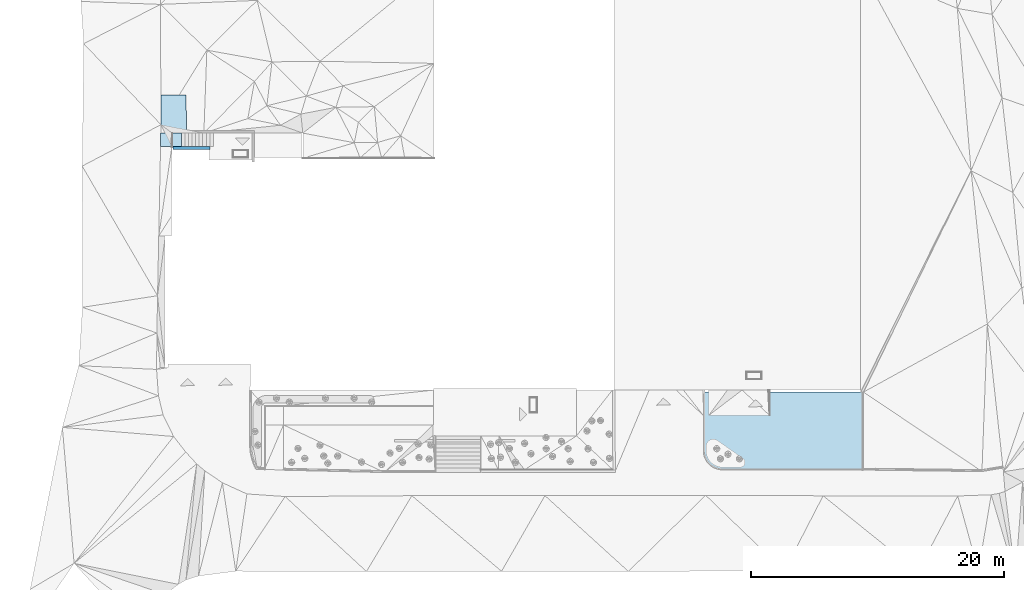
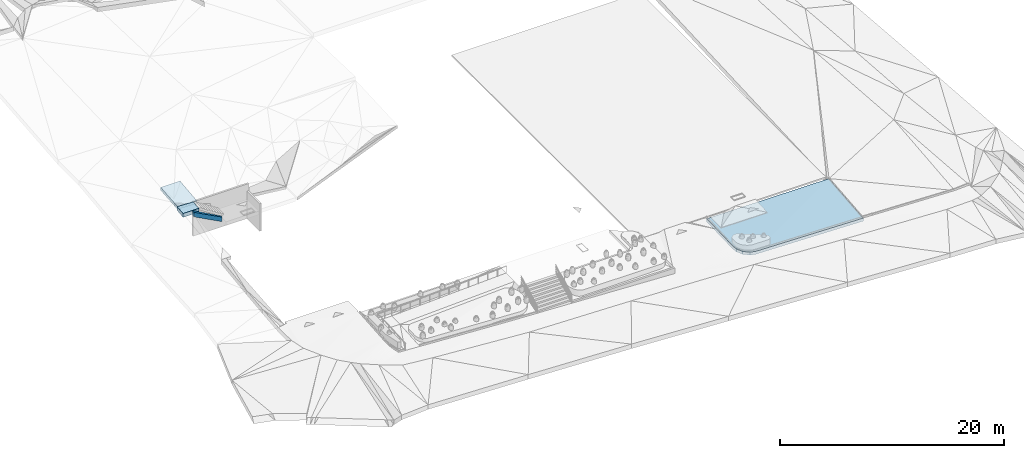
# One storey, part 15 of 23: 4 slabs.
"""IFC2X3 building model written with IfcOpenShell, lengths in metres."""

from ifc_helpers import new_model, entity, si_unit, converted_unit, direction, origin, place, context, subcontext, project, spatial, faceted_brep, material, material_list, layer, layer_set, type_object, element, save


model = new_model("IFC2X3")

# Units and contexts
model_context = context("Model", 3, precision=1e-05, world=origin(), true_north=direction((0.7716245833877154, 0.6360782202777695)))
body_context = subcontext(model_context, "Body", "Model", "MODEL_VIEW")
ifc_project = project(units=[si_unit("LENGTHUNIT", "METRE"), converted_unit("PLANEANGLEUNIT", "DEGREE", entity("IfcPlaneAngleMeasure", 0.017453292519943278), si_unit("PLANEANGLEUNIT", "RADIAN"), dimensions=[0, 0, 0, 0, 0, 0, 0]), si_unit("AREAUNIT", "SQUARE_METRE")], contexts=[model_context])

# Site, building, storey
site_placement = place(None, origin())
site = spatial("IfcSite", under=ifc_project, at=site_placement, Name="Default", CompositionType="ELEMENT")
building_placement = place(site_placement, origin())
building = spatial("IfcBuilding", under=site, at=building_placement, Name="<Building Name>", CompositionType="ELEMENT")
storey_placement = place(building_placement, origin())
storey = spatial("IfcBuildingStorey", under=building, at=storey_placement, Name="00 - HAV", CompositionType="ELEMENT", Elevation=0.0)

# Slabs
ifc_material_1 = material(Name="815 - Terrain, Grøntareal")
ifc_material_2 = material(Name="Site - Soil - Jordlag")
ifc_material_list_1 = material_list([ifc_material_1, ifc_material_2])
slab_type_1 = type_object("IfcSlabType", Name="Floor:771 Grøntarealer 2", PredefinedType="FLOOR")
slab_1_placement = place(storey_placement, origin())
element("IfcSlab", 1, at=slab_1_placement, inside=storey, type_object=slab_type_1, material=ifc_material_list_1, Name="Floor:771 Grøntarealer 2", ObjectType="Floor:771 Grøntarealer 2", PredefinedType="FLOOR", context=body_context, shape_type="Brep", body=[
    faceted_brep([(267.06103938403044, 46.891797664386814, 30.208719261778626), (278.2031523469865, 46.882836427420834, 29.950688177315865), (278.2031523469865, 46.882836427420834, 30.270688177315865), (267.06103938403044, 46.891797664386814, 30.528719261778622), (266.54835218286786, 46.98257279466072, 30.579078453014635), (266.41155393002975, 47.06982050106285, 30.594815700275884), (266.2747556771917, 47.15706820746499, 30.610552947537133), (266.2747556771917, 47.15706820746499, 30.290552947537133), (266.41155393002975, 47.06982050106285, 30.27481570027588), (266.54835218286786, 46.98257279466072, 30.25907845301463), (267.0100873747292, 46.9008191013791, 30.21372407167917), (267.0289964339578, 46.89747111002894, 30.531866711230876), (267.0152635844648, 46.89990215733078, 30.53321561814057), (266.8046957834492, 46.93718522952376, 30.55389885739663), (266.6307468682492, 46.967979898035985, 30.25098501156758), (266.0011591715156, 47.331563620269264, 30.32202744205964), (266.1379569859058, 47.24431471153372, 30.626290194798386), (266.79553974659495, 46.93880372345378, 30.554798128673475), (266.1379569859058, 47.24431471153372, 30.30629019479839), (267.0355633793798, 46.896308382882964, 30.211221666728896), (266.959135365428, 46.90984053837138, 30.21872888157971), (266.9649105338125, 46.90881800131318, 30.53816161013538), (266.9328675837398, 46.91449144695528, 30.541309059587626), (266.9008246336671, 46.920164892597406, 30.54445650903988), (266.88191557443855, 46.92351288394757, 30.226313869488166), (266.92052546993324, 46.91667671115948, 30.222521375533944), (266.8367387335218, 46.931511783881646, 30.55075140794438), (266.8046957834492, 46.93718522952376, 30.23389885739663), (266.8433056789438, 46.930349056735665, 30.2301063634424), (266.86878168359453, 46.92583833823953, 30.547603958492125), (265.6413132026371, 47.943132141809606, 30.391271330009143), (265.6469608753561, 47.91108463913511, 30.388123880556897), (265.65260854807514, 47.8790371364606, 30.384976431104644), (265.65260854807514, 47.8790371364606, 30.704976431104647), (265.6458034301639, 47.917652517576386, 30.708768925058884), (265.63899831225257, 47.95626789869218, 30.71256141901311), (265.60157016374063, 48.16865249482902, 30.7334201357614), (265.598167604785, 48.18796018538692, 30.735316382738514), (265.59613182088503, 48.199512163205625, 30.41645092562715), (265.60177949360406, 48.167464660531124, 30.4133034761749), (265.6046033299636, 48.15144090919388, 30.411729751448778), (265.6060152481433, 48.14342903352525, 30.410942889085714), (265.6074271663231, 48.13541715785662, 30.41015602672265), (265.60497272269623, 48.149344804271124, 30.73152388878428), (265.62538807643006, 48.033498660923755, 30.72014640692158), (265.6243701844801, 48.03927464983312, 30.4007136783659), (265.63001785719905, 48.007227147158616, 30.397566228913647), (265.63566552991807, 47.975179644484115, 30.3944187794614), (265.6321931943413, 47.99488327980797, 30.71635391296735), (265.579188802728, 48.29565467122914, 30.425893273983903), (265.58483647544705, 48.26360716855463, 30.422745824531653), (265.59048414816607, 48.231559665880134, 30.419598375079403), (265.58918714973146, 48.23891943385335, 30.740321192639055), (265.5846969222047, 48.26439905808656, 30.742823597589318), (265.580206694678, 48.28987868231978, 30.745326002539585), (265.6185829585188, 48.07211404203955, 30.72393890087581), (265.61177784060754, 48.11072942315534, 30.72773139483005), (265.6130748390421, 48.10336965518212, 30.407008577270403), (265.6187225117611, 48.071322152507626, 30.40386112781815), (265.5667360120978, 48.366317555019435, 30.75283321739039), (265.562245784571, 48.39179717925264, 30.755335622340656), (265.562245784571, 48.39179717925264, 30.435335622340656), (265.56789345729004, 48.35974967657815, 30.432188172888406), (265.7397462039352, 47.74216875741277, 30.36923918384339), (265.8268838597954, 47.60530037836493, 30.35350193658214), (265.8268838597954, 47.60530037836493, 30.673501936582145), (265.7397462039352, 47.74216875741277, 30.689239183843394), (266.87793618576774, 46.92421563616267, 30.226704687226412), (266.0011591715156, 47.331563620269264, 30.64202744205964), (265.91402031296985, 47.468431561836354, 30.657764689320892), (266.87793618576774, 46.92421563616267, 30.54670468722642), (266.99695348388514, 46.903144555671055, 30.535014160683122), (266.9694877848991, 46.90800665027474, 30.53771197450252), (266.9694877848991, 46.90800665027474, 30.21771197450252), (267.01526358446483, 46.89990215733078, 30.21321561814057), (265.57122623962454, 48.340837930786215, 30.750330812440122), (265.5703134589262, 48.34601487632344, 30.43083926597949), (265.5945164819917, 48.20866796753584, 30.737350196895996), (265.6090382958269, 48.126259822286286, 30.72925675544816), (265.5945164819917, 48.208667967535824, 30.417350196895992), (265.6235601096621, 48.043851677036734, 30.721163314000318), (265.6090382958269, 48.126259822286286, 30.409256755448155), (265.62356010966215, 48.043851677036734, 30.40116331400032), (265.63808192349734, 47.9614435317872, 30.39306987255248), (265.57354113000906, 48.32770217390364, 30.429040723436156), (265.57838113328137, 48.30023257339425, 30.426342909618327), (265.5783811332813, 48.30023257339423, 30.746342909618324), (265.63808192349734, 47.9614435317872, 30.713069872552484), (265.5703134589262, 48.34601487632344, 30.750839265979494), (265.91402031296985, 47.468431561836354, 30.33776468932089), (265.562245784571, 48.57366303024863, 30.76104448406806), (265.562245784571, 48.75552888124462, 30.76675334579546), (265.562245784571, 49.11926058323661, 30.778171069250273), (265.562245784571, 49.48299228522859, 30.78958879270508), (265.562245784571, 49.84672398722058, 30.801006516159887), (265.562245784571, 50.02858983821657, 30.80671537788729), (265.562245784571, 50.21045568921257, 30.812424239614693), (265.562245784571, 50.574187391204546, 30.823841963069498), (265.562245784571, 50.93791909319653, 30.835259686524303), (265.562245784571, 51.30165079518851, 30.846677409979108), (265.5622457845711, 51.73428625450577, 30.860258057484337), (265.562245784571, 52.166921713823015, 30.873838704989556), (265.562245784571, 52.59955717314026, 30.887419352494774), (265.562245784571, 53.03219263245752, 30.901), (265.562245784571, 53.03219263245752, 30.581), (265.562245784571, 52.599557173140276, 30.567419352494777), (265.562245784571, 52.166921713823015, 30.55383870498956), (265.562245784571, 51.73428625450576, 30.54025805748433), (265.562245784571, 51.30165079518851, 30.52667740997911), (265.562245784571, 50.93791909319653, 30.515259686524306), (265.562245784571, 50.574187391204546, 30.503841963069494), (265.562245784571, 50.21045568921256, 30.49242423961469), (265.562245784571, 50.02858983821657, 30.48671537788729), (265.562245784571, 49.84672398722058, 30.481006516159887), (265.562245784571, 49.482992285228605, 30.46958879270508), (265.562245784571, 49.11926058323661, 30.45817106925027), (265.562245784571, 48.75552888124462, 30.44675334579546), (265.562245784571, 48.57366303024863, 30.44104448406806), (278.2031523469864, 53.03219263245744, 30.539999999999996), (278.2031523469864, 53.03219263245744, 30.860000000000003), (266.7085960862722, 48.33571966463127, 30.616261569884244), (266.59111498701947, 48.81702699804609, 30.6454423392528), (266.4736338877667, 49.29833433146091, 30.674623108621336), (266.6307468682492, 46.96797989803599, 30.570985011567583), (266.713143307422, 46.953391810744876, 30.562891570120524), (266.826077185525, 47.85441233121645, 30.58708080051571), (267.0022988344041, 47.132451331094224, 30.543309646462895), (266.9435582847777, 47.37310499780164, 30.557900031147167), (265.84171818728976, 51.887224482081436, 30.831582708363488), (266.35615278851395, 49.77964166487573, 30.703803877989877), (266.2386716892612, 50.260948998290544, 30.73298464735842), (266.12119059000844, 50.74225633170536, 30.762165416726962), (265.7228548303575, 49.94996112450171, 30.769000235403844), (265.7532552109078, 50.211983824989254, 30.775501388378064), (266.4148933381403, 49.53898799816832, 30.68921349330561), (265.85154583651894, 49.79471701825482, 30.750074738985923), (265.7019819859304, 52.45970855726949, 30.866291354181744), (265.98145438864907, 51.3147404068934, 30.79687406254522), (265.9075522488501, 49.936516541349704, 30.750368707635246), (266.71314330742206, 46.95339181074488, 30.242891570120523), (266.4736338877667, 49.29833433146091, 30.354623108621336), (266.59111498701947, 48.81702699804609, 30.325442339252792), (266.7085960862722, 48.33571966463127, 30.296261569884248), (266.826077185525, 47.85441233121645, 30.267080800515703), (266.79553974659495, 46.93880372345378, 30.23479812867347), (266.9435582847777, 47.37310499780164, 30.237900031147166), (267.0022988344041, 47.132451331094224, 30.223309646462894), (265.84171818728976, 51.88722448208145, 30.511582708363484), (265.7532552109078, 50.211983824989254, 30.455501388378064), (265.7228548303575, 49.94996112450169, 30.44900023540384), (266.23867168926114, 50.26094899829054, 30.412984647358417), (266.35615278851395, 49.77964166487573, 30.38380387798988), (266.12119059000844, 50.74225633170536, 30.442165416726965), (266.4148933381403, 49.53898799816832, 30.369213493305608), (265.7019819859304, 52.45970855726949, 30.546291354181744), (265.85154583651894, 49.794717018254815, 30.430074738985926), (265.98145438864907, 51.3147404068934, 30.476874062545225), (265.9075522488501, 49.936516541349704, 30.430368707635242)], [[[0, 1, 2, 3]], [[4, 5, 6, 7, 8, 9]], [[10, 11, 12]], [[13, 9, 14]], [[15, 6, 16]], [[9, 13, 17]], [[6, 15, 18]], [[19, 0, 3, 11]], [[20, 21, 22, 23, 24, 25]], [[26, 13, 27, 28, 29]], [[30, 31, 32, 33, 34, 35]], [[36, 37, 38, 39, 40, 41, 42, 43]], [[44, 45, 46, 47, 48]], [[49, 50, 51, 52, 53, 54]], [[55, 56, 57, 58]], [[59, 60, 61, 62]], [[32, 63, 64, 65, 66, 33]], [[29, 28, 67]], [[64, 68, 69]], [[24, 23, 70]], [[20, 71, 72]], [[71, 20, 73]], [[11, 10, 74]], [[75, 62, 76]], [[38, 37, 77]], [[42, 56, 78]], [[52, 51, 79]], [[45, 44, 80]], [[56, 42, 81]], [[55, 58, 82]], [[35, 47, 83]], [[54, 84, 85]], [[84, 54, 86]], [[47, 35, 87]], [[62, 75, 88]], [[68, 64, 89]], [[60, 90, 91, 92, 93, 94, 95, 96, 97, 98, 99, 100, 101, 102, 103, 104, 105, 106, 107, 108, 109, 110, 111, 112, 113, 114, 115, 116, 117, 61]], [[118, 104, 103, 119]], [[2, 1, 118, 119]], [[96, 35, 34, 33, 97]], [[90, 60, 59]], [[92, 37, 36, 43]], [[93, 56, 55]], [[94, 44, 48]], [[92, 54, 53, 52]], [[120, 121, 122, 123, 124, 17, 125]], [[12, 126, 127]], [[125, 72, 127]], [[65, 101, 100, 99]], [[94, 87, 96, 95]], [[80, 94, 93]], [[92, 78, 93]], [[86, 92, 91, 90]], [[6, 128, 16]], [[5, 129, 130, 131]], [[132, 68, 133]], [[102, 133, 103]], [[97, 33, 66]], [[4, 122, 134, 129]], [[125, 13, 26, 29]], [[125, 23, 22, 21]], [[126, 11, 3]], [[103, 135, 136]], [[99, 66, 65]], [[90, 88, 75]], [[131, 6, 5]], [[66, 99, 98, 97]], [[92, 77, 37]], [[132, 133, 102]], [[93, 78, 56]], [[137, 128, 6, 131]], [[125, 17, 13]], [[68, 16, 135]], [[129, 5, 4]], [[94, 80, 44]], [[96, 87, 35]], [[4, 123, 122]], [[101, 65, 69]], [[101, 69, 132]], [[138, 136, 135]], [[135, 103, 133]], [[135, 133, 68]], [[138, 135, 16]], [[16, 128, 138]], [[128, 136, 138]], [[101, 132, 102]], [[68, 132, 69]], [[92, 86, 54]], [[125, 70, 23]], [[127, 72, 71]], [[126, 12, 11]], [[3, 2, 119]], [[119, 103, 136, 128, 137, 131, 130, 129, 134, 122, 121, 120, 125, 127, 126, 3]], [[110, 32, 31, 30, 111]], [[115, 42, 41, 40, 39, 38]], [[114, 58, 57]], [[113, 47, 46, 45]], [[115, 51, 50, 49]], [[117, 62, 61]], [[112, 111, 83, 113]], [[116, 115, 85, 117]], [[114, 113, 82]], [[114, 81, 115]], [[107, 106, 64, 108]], [[139, 14, 140, 141, 142, 143, 144]], [[145, 146, 74]], [[145, 73, 143]], [[18, 147, 7]], [[148, 15, 149]], [[150, 151, 8, 152]], [[151, 153, 140, 9]], [[146, 0, 19]], [[143, 28, 27]], [[143, 20, 25, 24]], [[63, 32, 110]], [[64, 63, 108]], [[154, 155, 104]], [[117, 85, 84]], [[110, 109, 108, 63]], [[8, 7, 152]], [[115, 81, 42]], [[105, 148, 149]], [[7, 147, 156, 152]], [[114, 82, 58]], [[143, 67, 28]], [[155, 18, 15]], [[104, 148, 105]], [[113, 83, 47]], [[140, 14, 9]], [[89, 64, 106]], [[149, 89, 106]], [[155, 154, 157]], [[148, 104, 155]], [[15, 148, 155]], [[18, 155, 157]], [[157, 147, 18]], [[157, 154, 147]], [[105, 149, 106]], [[89, 149, 15]], [[9, 8, 151]], [[115, 79, 51]], [[117, 76, 62]], [[143, 73, 20]], [[145, 74, 10]], [[118, 1, 0]], [[118, 0, 146, 145, 143, 142, 141, 140, 153, 151, 150, 152, 156, 147, 154, 104]], [[10, 12, 71]], [[13, 14, 139, 144]], [[13, 144, 27]], [[15, 16, 68]], [[9, 17, 124, 123]], [[9, 123, 4]], [[6, 18, 7]], [[29, 67, 24]], [[64, 69, 65]], [[24, 70, 29]], [[20, 72, 21]], [[71, 73, 10]], [[11, 74, 19]], [[75, 76, 84]], [[38, 77, 52]], [[42, 78, 43]], [[52, 79, 38]], [[45, 80, 55]], [[56, 81, 57]], [[55, 82, 45]], [[35, 83, 30]], [[54, 85, 49]], [[84, 86, 75]], [[47, 87, 48]], [[62, 88, 59]], [[68, 89, 15]], [[90, 75, 86]], [[92, 43, 78]], [[93, 55, 80]], [[125, 29, 70]], [[94, 48, 87]], [[92, 52, 77]], [[90, 59, 88]], [[125, 21, 72]], [[127, 71, 12]], [[117, 84, 76]], [[115, 38, 79]], [[114, 57, 81]], [[143, 27, 144]], [[113, 45, 82]], [[111, 30, 83]], [[115, 49, 85]], [[143, 24, 67]], [[145, 10, 73]], [[146, 19, 74]]]),
])
slab_2_placement = place(storey_placement, origin())
element("IfcSlab", 2, at=slab_2_placement, inside=storey, type_object=slab_type_1, material=ifc_material_list_1, Name="Floor:771 Grøntarealer 2", ObjectType="Floor:771 Grøntarealer 2", PredefinedType="FLOOR", context=body_context, shape_type="Brep", body=[
    faceted_brep([(222.73687662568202, 76.4886844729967, 35.096594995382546), (223.50889116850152, 76.4886844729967, 35.09790934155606), (224.73689240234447, 76.4886844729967, 35.1), (224.73689240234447, 76.4886844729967, 34.78), (223.50889116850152, 76.4886844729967, 34.77790934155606), (222.73687662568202, 76.4886844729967, 34.776594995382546), (224.7488083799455, 73.4886844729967, 34.749061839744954), (224.7488083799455, 73.4886844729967, 34.42906183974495), (224.74474373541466, 74.51201080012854, 34.54876992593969), (224.74067909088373, 75.53533712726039, 34.66847801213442), (224.74067909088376, 75.53533712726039, 34.98847801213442), (224.74474373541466, 74.51201080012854, 34.86876992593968), (223.52080704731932, 73.4886844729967, 34.79268881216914), (222.74879260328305, 73.4886844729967, 34.82011602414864), (222.74879260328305, 73.4886844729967, 34.50011602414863), (223.52080704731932, 73.4886844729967, 34.47268881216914), (222.7447279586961, 74.51201081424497, 34.91442542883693), (222.74283461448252, 74.98868447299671, 34.95835550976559), (222.74283461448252, 74.98868447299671, 34.63835550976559), (222.7447279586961, 74.51201081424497, 34.59442542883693), (223.8557882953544, 74.23040695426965, 34.85925679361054), (223.83651132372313, 75.02367413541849, 34.94355630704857), (223.8557882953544, 74.23040695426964, 34.53925679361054), (223.8365113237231, 75.02367413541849, 34.62355630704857)], [[[0, 1, 2, 3, 4, 5]], [[6, 7, 8, 9, 3, 2, 10, 11]], [[6, 12, 13, 14, 15, 7]], [[13, 16, 17, 0, 5, 18, 19, 14]], [[6, 11, 20]], [[17, 1, 0]], [[10, 2, 1]], [[16, 12, 20]], [[11, 21, 20]], [[21, 1, 17]], [[10, 21, 11]], [[1, 21, 10]], [[17, 16, 21]], [[12, 16, 13]], [[16, 20, 21]], [[6, 20, 12]], [[22, 8, 7]], [[5, 4, 18]], [[4, 3, 9]], [[22, 15, 19]], [[22, 23, 8]], [[18, 4, 23]], [[8, 23, 9]], [[9, 23, 4]], [[23, 19, 18]], [[14, 19, 15]], [[23, 22, 19]], [[15, 22, 7]]]),
])
ifc_material_3 = material(Name="Site - Concrete - Betongbelegg")
ifc_material_4 = material(Name="Site - Sand - Afretningssand")
ifc_material_5 = material(Name="Site - Gravel - Stabilitet grus")
ifc_material_6 = material(Name="Site - Gravel - Bunnsikringsgrus")
ifc_material_list_2 = material_list([ifc_material_3, ifc_material_4, ifc_material_5, ifc_material_6])
ifc_layer_1 = layer(ifc_material_3, 0.08)
ifc_layer_2 = layer(ifc_material_4, 0.03)
ifc_layer_3 = layer(ifc_material_5, 0.15000000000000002)
ifc_layer_4 = layer(ifc_material_6, 0.15000000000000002)
ifc_layer_set = layer_set([ifc_layer_1, ifc_layer_2, ifc_layer_3, ifc_layer_4], Name="Floor:761 Betongbelegg - Gangarealer")
slab_type_2 = type_object("IfcSlabType", Name="Floor:761 Betongbelegg - Gangarealer", PredefinedType="FLOOR", material=ifc_layer_set)
slab_3_placement = place(storey_placement, origin())
element("IfcSlab", 3, at=slab_3_placement, inside=storey, type_object=slab_type_2, material=ifc_material_list_2, Name="Floor:761 Betongbelegg - Gangarealer", ObjectType="Floor:761 Betongbelegg - Gangarealer", PredefinedType="FLOOR", context=body_context, shape_type="Brep", body=[
    faceted_brep([(224.36315234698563, 73.4886844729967, 34.74867483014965), (224.36315234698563, 73.4886844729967, 34.33867483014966), (223.70019493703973, 73.4886844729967, 34.3673555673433), (223.37742306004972, 73.4886844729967, 34.38131926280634), (222.71446565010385, 73.4886844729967, 34.41), (222.71446565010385, 73.4886844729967, 34.82), (223.37742306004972, 73.4886844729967, 34.791319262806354), (223.70019493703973, 73.4886844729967, 34.77735556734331), (224.36315234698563, 72.42492368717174, 34.71364705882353), (224.36315234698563, 72.42492368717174, 34.30364705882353), (224.36315234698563, 72.85267513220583, 34.31773216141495), (224.36315234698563, 73.06093302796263, 34.324589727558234), (224.36315234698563, 73.06093302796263, 34.73458972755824), (224.36315234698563, 72.85267513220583, 34.72773216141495), (222.71446565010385, 72.42492368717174, 34.70202118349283), (222.71446565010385, 72.42492368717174, 34.29202118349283), (223.37742308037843, 72.42492368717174, 34.29669609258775), (223.87028771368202, 72.42492368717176, 34.30017157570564), (223.87028771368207, 72.42492368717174, 34.710171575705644), (223.37742308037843, 72.42492368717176, 34.706696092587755), (222.71446565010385, 72.74292836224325, 34.737290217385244), (222.71446565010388, 73.06093303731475, 34.772559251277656), (222.71446565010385, 73.06093303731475, 34.36255925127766), (222.71446565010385, 72.74292836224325, 34.32729021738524), (223.5388089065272, 72.95680413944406, 34.746085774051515), (223.5388089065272, 72.95680413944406, 34.33608577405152)], [[[0, 1, 2, 3, 4, 5, 6, 7]], [[8, 9, 10, 11, 1, 0, 12, 13]], [[14, 15, 16, 17, 9, 8, 18, 19]], [[14, 20, 21, 5, 4, 22, 23, 15]], [[7, 24, 12]], [[12, 0, 7]], [[24, 6, 21]], [[13, 12, 24]], [[6, 24, 7]], [[20, 14, 19]], [[24, 20, 19]], [[6, 5, 21]], [[18, 8, 13]], [[24, 21, 20]], [[24, 19, 18]], [[18, 13, 24]], [[11, 25, 2]], [[2, 1, 11]], [[22, 3, 25]], [[25, 11, 10]], [[2, 25, 3]], [[16, 15, 23]], [[16, 23, 25]], [[22, 4, 3]], [[10, 9, 17]], [[23, 22, 25]], [[17, 16, 25]], [[25, 10, 17]]]),
])
ifc_material_7 = material(Name="Site - Gravel - Steinmel")
ifc_material_list_3 = material_list([ifc_material_7, ifc_material_5, ifc_material_6])
slab_type_3 = type_object("IfcSlabType", Name="Floor:760 Grus", PredefinedType="FLOOR")
slab_4_placement = place(storey_placement, origin())
element("IfcSlab", 4, at=slab_4_placement, inside=storey, type_object=slab_type_3, material=ifc_material_list_3, Name="Floor:760 Grus", ObjectType="Floor:760 Grus", PredefinedType="FLOOR", context=body_context, shape_type="Brep", body=[
    faceted_brep([(226.60818079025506, 72.4151926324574, 33.1), (226.60818079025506, 72.4151926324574, 32.6), (225.87692366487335, 72.4151926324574, 33.00207663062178), (225.14566656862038, 72.4151926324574, 33.40415324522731), (224.46566297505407, 72.4151926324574, 33.778048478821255), (223.6831523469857, 72.4151926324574, 34.208306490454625), (223.6831523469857, 72.4151926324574, 34.708306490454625), (224.46566297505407, 72.4151926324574, 34.278048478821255), (225.14566656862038, 72.4151926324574, 33.90415324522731), (225.8769236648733, 72.4151926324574, 33.50207663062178), (226.608180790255, 72.34536711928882, 33.1), (226.608180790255, 72.27554160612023, 33.1), (226.60818079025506, 72.18194191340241, 33.1), (226.60818079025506, 72.18194191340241, 32.6), (226.60818079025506, 72.27554160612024, 32.599999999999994), (226.608180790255, 72.34536711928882, 32.599999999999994), (225.82567014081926, 72.18030699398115, 33.51535285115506), (225.24817364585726, 72.17910041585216, 33.82188518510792), (224.46566299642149, 72.17746549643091, 34.237238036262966), (223.6831523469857, 72.17583057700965, 34.65259088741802), (223.6831523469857, 72.17583057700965, 34.15259088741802), (224.46566299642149, 72.17746549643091, 33.737238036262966), (225.24817364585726, 72.17910041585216, 33.32188518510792), (225.82567014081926, 72.18030699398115, 33.01535285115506), (223.6831523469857, 72.29551160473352, 34.68044868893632), (223.6831523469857, 72.29551160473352, 34.18044868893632), (224.85691825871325, 72.25752081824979, 34.04071865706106), (225.53692180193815, 72.23458472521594, 33.67337453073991), (226.1091233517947, 72.2408606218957, 33.367330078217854), (224.26168462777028, 72.27269612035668, 34.363461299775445), (224.80566473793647, 72.34161138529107, 34.080441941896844), (224.16999880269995, 72.34622936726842, 34.42717966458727), (225.5369218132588, 72.29960655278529, 33.67900869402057), (226.10842008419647, 72.31025895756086, 33.370526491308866), (225.53692180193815, 72.23458472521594, 33.17337453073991), (224.85691825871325, 72.25752081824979, 33.54071865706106), (226.10912335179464, 72.24086062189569, 32.86733007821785), (224.16999880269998, 72.34622936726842, 33.92717966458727), (224.80566473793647, 72.34161138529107, 33.580441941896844), (224.26168462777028, 72.27269612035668, 33.86346129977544), (225.5369218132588, 72.29960655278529, 33.17900869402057), (226.1084200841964, 72.31025895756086, 32.870526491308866)], [[[0, 1, 2, 3, 4, 5, 6, 7, 8, 9]], [[0, 10, 11, 12, 13, 14, 15, 1]], [[12, 16, 17, 18, 19, 20, 21, 22, 23, 13]], [[19, 24, 6, 5, 25, 20]], [[26, 17, 27]], [[28, 12, 11]], [[29, 30, 31]], [[10, 0, 9]], [[32, 27, 28]], [[31, 30, 7]], [[16, 27, 17]], [[10, 33, 11]], [[32, 8, 30]], [[18, 17, 26]], [[19, 18, 29]], [[26, 30, 29]], [[28, 27, 16]], [[26, 27, 32]], [[12, 28, 16]], [[9, 32, 33]], [[28, 33, 32]], [[7, 30, 8]], [[8, 32, 9]], [[6, 24, 31]], [[32, 30, 26]], [[6, 31, 7]], [[31, 24, 29]], [[19, 29, 24]], [[18, 26, 29]], [[11, 33, 28]], [[9, 33, 10]], [[34, 22, 35]], [[14, 13, 36]], [[37, 38, 39]], [[2, 1, 15]], [[36, 34, 40]], [[4, 38, 37]], [[22, 34, 23]], [[14, 41, 15]], [[38, 3, 40]], [[35, 22, 21]], [[39, 21, 20]], [[39, 38, 35]], [[23, 34, 36]], [[40, 34, 35]], [[23, 36, 13]], [[41, 40, 2]], [[40, 41, 36]], [[3, 38, 4]], [[2, 40, 3]], [[37, 25, 5]], [[35, 38, 40]], [[4, 37, 5]], [[39, 25, 37]], [[25, 39, 20]], [[39, 35, 21]], [[36, 41, 14]], [[15, 41, 2]]]),
])

save(model, "model.ifc")
